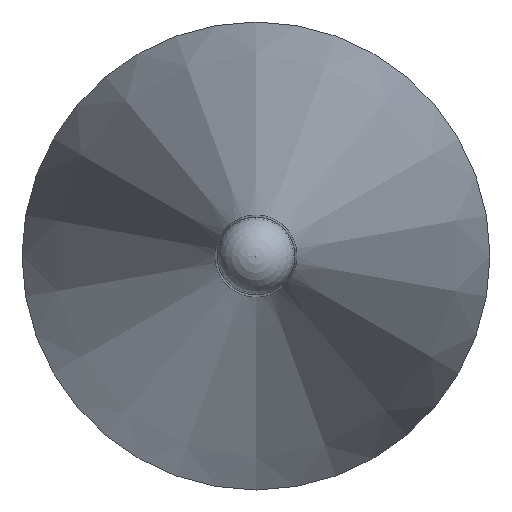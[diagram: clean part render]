
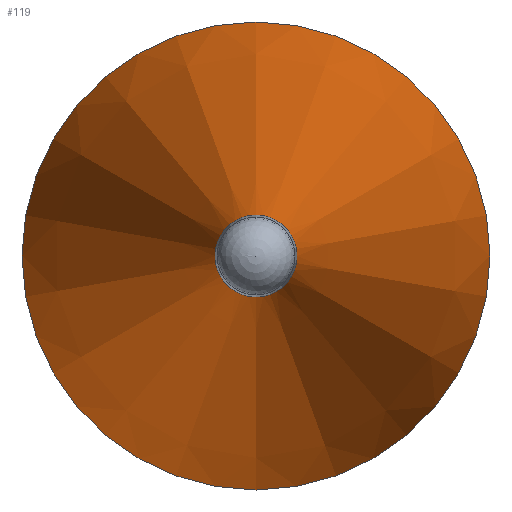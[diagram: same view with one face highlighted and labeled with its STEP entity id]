
A CAD part, left-side view. The second image highlights one B-rep face of the part: STEP entity #119.
In plain terms, the highlighted conical face has half-angle 12 degrees and reference radius 3 mm.
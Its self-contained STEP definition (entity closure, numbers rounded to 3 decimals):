
#97=CONICAL_SURFACE('',#194,3.,12.);
#106=FACE_BOUND('',#134,.T.);
#107=FACE_BOUND('',#135,.T.);
#119=ADVANCED_FACE('',(#106,#107),#97,.T.);
#134=EDGE_LOOP('',(#150));
#135=EDGE_LOOP('',(#151));
#150=ORIENTED_EDGE('',*,*,#172,.T.);
#151=ORIENTED_EDGE('',*,*,#173,.F.);
#164=VERTEX_POINT('',#249);
#165=VERTEX_POINT('',#252);
#172=EDGE_CURVE('',#164,#164,#180,.T.);
#173=EDGE_CURVE('',#165,#165,#181,.T.);
#180=CIRCLE('',#191,0.525);
#181=CIRCLE('',#193,3.);
#191=AXIS2_PLACEMENT_3D('',#248,#215,#216);
#193=AXIS2_PLACEMENT_3D('',#251,#219,#220);
#194=AXIS2_PLACEMENT_3D('',#253,#221,#222);
#215=DIRECTION('',(1.,0.,0.));
#216=DIRECTION('',(0.,0.,-1.));
#219=DIRECTION('',(1.,0.,0.));
#220=DIRECTION('',(0.,0.,-1.));
#221=DIRECTION('',(1.,0.,0.));
#222=DIRECTION('',(0.,0.,-1.));
#248=CARTESIAN_POINT('',(7901.912,6103.288,0.));
#249=CARTESIAN_POINT('',(7901.912,6103.288,-0.525));
#251=CARTESIAN_POINT('',(7913.554,6103.288,0.));
#252=CARTESIAN_POINT('',(7913.554,6103.288,-3.));
#253=CARTESIAN_POINT('',(7913.554,6103.288,0.));
